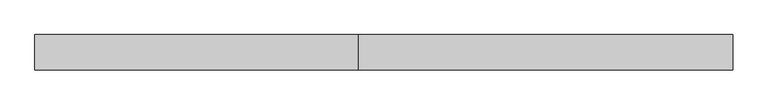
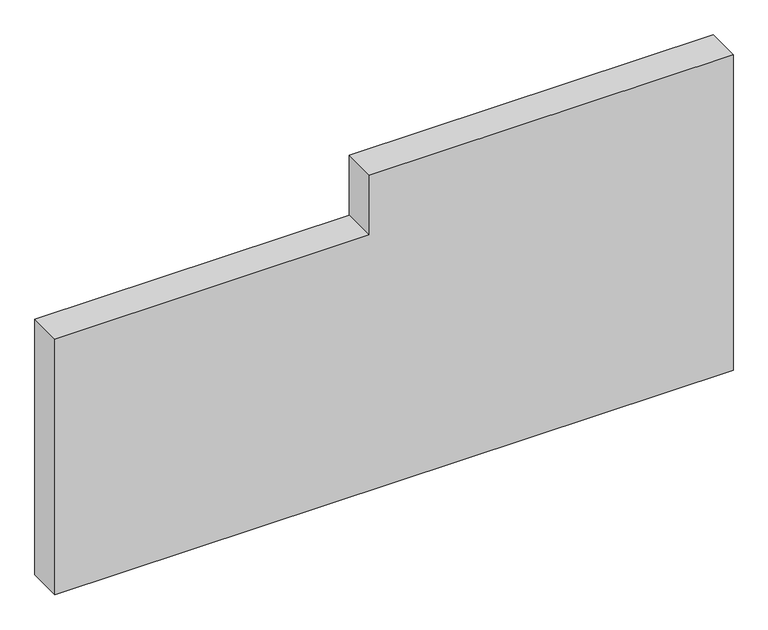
"""IFC4 building model written with IfcOpenShell, lengths in millimetres: plate geometry, Системная панель : Алюкобонд серый."""

from ifc_helpers import new_model, si_unit, frame, origin, place, context, project, spatial, polyline, outline, extrude, source, transform, mapped, element, save


def plate_e6a6db46(model_context):
    return source(origin(), model_context, "Body", "SweptSolid", [
        extrude(outline(polyline([(0.0, -590.0), (0.0, 590.0), (580.0, 590.0), (580.0, -42.7229298), (470.0088803, -42.7229298), (470.0088803, -590.0), (0.0, -590.0)])), frame((0.0, -10.5, 0.0), z_axis=(0.0, 1.0, 0.0), x_axis=(0.0, 0.0, 1.0)), (0.0, 0.0, 1.0), 60.0),
    ])


if __name__ == "__main__":
    model = new_model("IFC4")
    model_context = context("Model", 3, world=origin())
    ifc_project = project(units=[si_unit("LENGTHUNIT", "METRE", prefix="MILLI")], contexts=[model_context])
    site = spatial("IfcSite", under=ifc_project)
    building = spatial("IfcBuilding", under=site)
    placement = place(None, origin())
    plate_shape = plate_e6a6db46(model_context)
    element("IfcPlate", 1, ObjectType="Системная панель : Алюкобонд серый", at=placement, inside=building, context=model_context, shape_type="MappedRepresentation", body=[
        mapped(plate_shape, transform((0.0, 0.0, 0.0), x_axis=(1.0, 0.0, 0.0), y_axis=(0.0, 1.0, 0.0), z_axis=(0.0, 0.0, 1.0))),
    ])
    save(model, "model.ifc")
